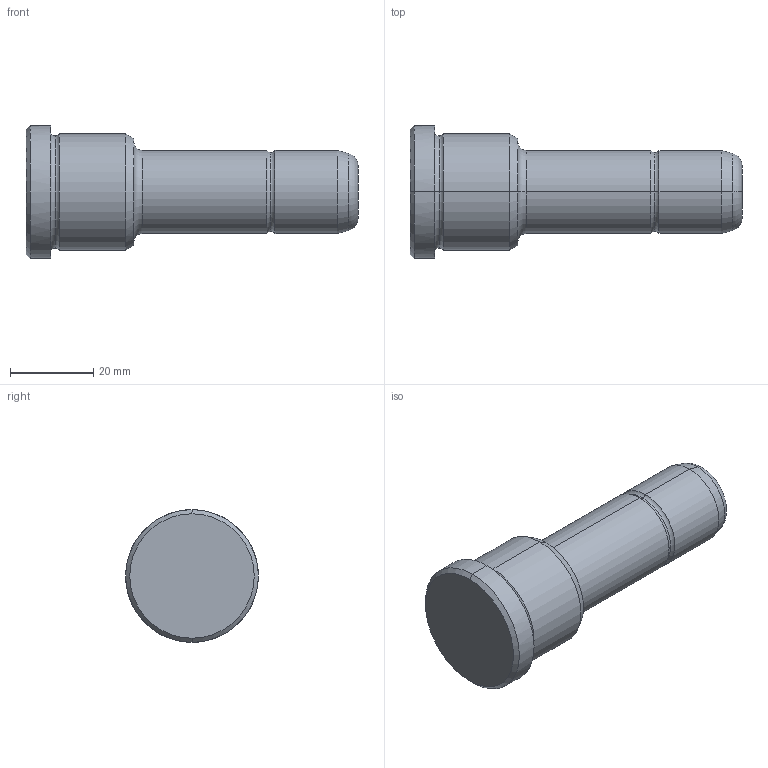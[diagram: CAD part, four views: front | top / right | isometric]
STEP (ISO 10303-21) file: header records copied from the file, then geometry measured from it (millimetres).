
FILE_DESCRIPTION(('CATIA V5 STEP Exchange'),'2;1');
FILE_NAME('C:\Users\Utente\Desktop\IO LAVORO\3D X SITO CF\X SITO\PLASTICA\351\351-20X26X80.stp','2021-08-27T12:32:49+00:00',('none'),('none'),'CATIA Version 5 Release 20 GA (IN-10)','CATIA V5 STEP AP203','none');
FILE_SCHEMA(('CONFIG_CONTROL_DESIGN'));
Length unit declared in the file: millimetre
Products named in the file (1): 351-20X26X80
Bounding box: 80 x 32 x 32 mm (x, y, z)
Volume: 33655.9 mm3; surface area: 7082.8 mm2
Topology: 1 solids, 1 shells, 30 faces, 86 edges, 60 vertices
Faces by surface type: torus 12, cylinder 8, cone 6, plane 4
Entity records: 1112 total; most frequent: CARTESIAN_POINT 289, ORIENTED_EDGE 172, DIRECTION 138, AXIS2_PLACEMENT_3D 95, EDGE_CURVE 86, CIRCLE 64, VERTEX_POINT 60, EDGE_LOOP 32
